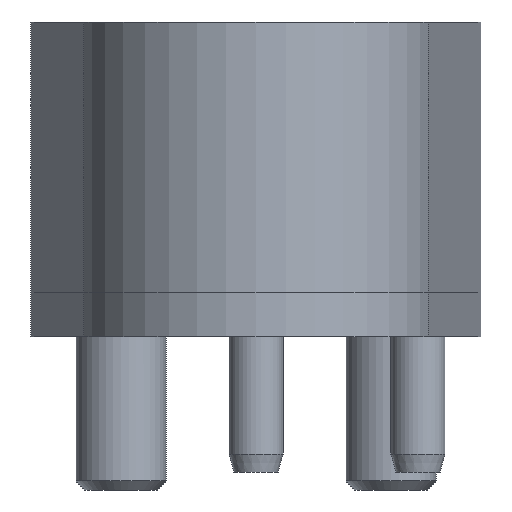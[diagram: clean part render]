
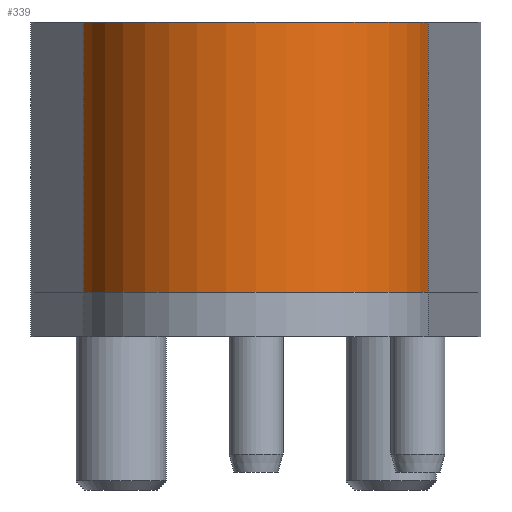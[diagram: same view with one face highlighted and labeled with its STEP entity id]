
A CAD part, left-side view. The second image highlights one B-rep face of the part: STEP entity #339.
In plain terms, the highlighted cylindrical face has radius 19.5 mm (diameter 39 mm), a partial arc.
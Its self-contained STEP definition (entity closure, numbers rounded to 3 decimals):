
#252=CYLINDRICAL_SURFACE('',#2658,19.5);
#339=ADVANCED_FACE('',(#513),#252,.T.);
#513=FACE_OUTER_BOUND('',#663,.T.);
#663=EDGE_LOOP('',(#1149,#1150,#1151,#1152));
#845=CIRCLE('',#2656,19.5);
#846=CIRCLE('',#2657,19.5);
#1149=ORIENTED_EDGE('',*,*,#1941,.T.);
#1150=ORIENTED_EDGE('',*,*,#1942,.F.);
#1151=ORIENTED_EDGE('',*,*,#1943,.F.);
#1152=ORIENTED_EDGE('',*,*,#1944,.T.);
#1685=VERTEX_POINT('',#3915);
#1686=VERTEX_POINT('',#3916);
#1687=VERTEX_POINT('',#3918);
#1688=VERTEX_POINT('',#3920);
#1941=EDGE_CURVE('',#1685,#1686,#2223,.T.);
#1942=EDGE_CURVE('',#1687,#1686,#845,.T.);
#1943=EDGE_CURVE('',#1688,#1687,#2224,.T.);
#1944=EDGE_CURVE('',#1688,#1685,#846,.T.);
#2223=LINE('',#3914,#2413);
#2224=LINE('',#3919,#2414);
#2413=VECTOR('',#3104,1.);
#2414=VECTOR('',#3107,1.);
#2656=AXIS2_PLACEMENT_3D('',#3917,#3105,#3106);
#2657=AXIS2_PLACEMENT_3D('',#3921,#3108,#3109);
#2658=AXIS2_PLACEMENT_3D('',#3922,#3110,#3111);
#3104=DIRECTION('',(0.,0.,1.));
#3105=DIRECTION('',(0.,0.,1.));
#3106=DIRECTION('',(-0.106,0.994,0.));
#3107=DIRECTION('',(0.,0.,1.));
#3108=DIRECTION('',(0.,0.,1.));
#3109=DIRECTION('',(-0.106,0.994,0.));
#3110=DIRECTION('',(0.,0.,1.));
#3111=DIRECTION('',(-1.,0.,0.));
#3914=CARTESIAN_POINT('',(-3.771,-19.132,5.));
#3915=CARTESIAN_POINT('',(-3.771,-19.132,5.));
#3916=CARTESIAN_POINT('',(-3.771,-19.132,35.));
#3917=CARTESIAN_POINT('',(0.,0.,35.));
#3918=CARTESIAN_POINT('',(-3.771,19.132,35.));
#3919=CARTESIAN_POINT('',(-3.771,19.132,5.));
#3920=CARTESIAN_POINT('',(-3.771,19.132,5.));
#3921=CARTESIAN_POINT('',(0.,0.,5.));
#3922=CARTESIAN_POINT('',(0.,0.,0.));
